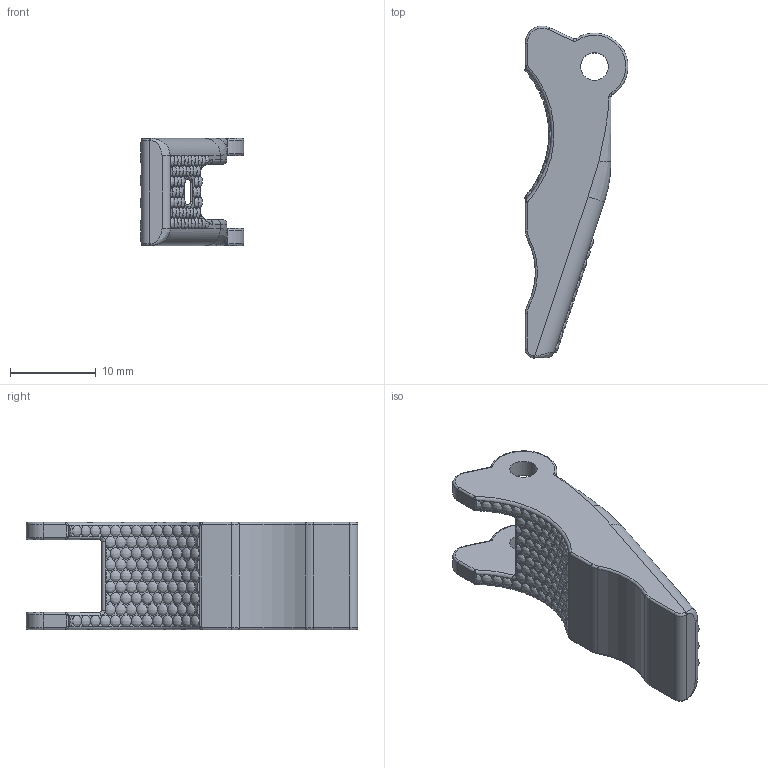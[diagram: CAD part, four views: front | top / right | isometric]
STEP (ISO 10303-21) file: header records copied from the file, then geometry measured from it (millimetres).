
FILE_DESCRIPTION(/* description */ ('STEP AP242 Edition 2','CAx-IF Rec.Pracs.---Representation and Presentation of Product Manufacturing Information (PMI)---4.0---2014-10-13','CAx-IF Rec.Pracs.---3D Tessellated Geometry---0.4---2014-09-14','2;1','CAx-IF Rec.Pracs.---User Defined Attributes---1.5---2016-08-15'),/* implementation_level */ '2;1');
FILE_NAME(/* name */ 'Assembly 1 - Handle (2)',/* time_stamp */ '2026-04-09T23:42:45Z',/* author */ (''),/* organization */ (''),/* preprocessor_version */ 'ST-DEVELOPER v20',/* originating_system */ 'ONSHAPE BY PTC INC, 1.213',/* authorisation */ ' ');
FILE_SCHEMA (('AP242_MANAGED_MODEL_BASED_3D_ENGINEERING_MIM_LF { 1 0 10303 442 3 1 4 }'));
Length unit declared in the file: metre
Products named in the file (1): Handle
Bounding box: 12.11 x 38.69 x 12.5 mm (x, y, z)
Volume: 2404.2 mm3; surface area: 1898.9 mm2
Topology: 1 solids, 1 shells, 400 faces, 1168 edges, 465 vertices
Faces by surface type: bspline 186, cylinder 103, plane 73, torus 38
Full cylindrical faces by diameter (mm): 3.2 x2
Entity records: 16321 total; most frequent: CARTESIAN_POINT 9253, ORIENTED_EDGE 1696, DIRECTION 1131, EDGE_CURVE 848, AXIS2_PLACEMENT_3D 479, VERTEX_POINT 452, EDGE_LOOP 408, FACE_BOUND 408
